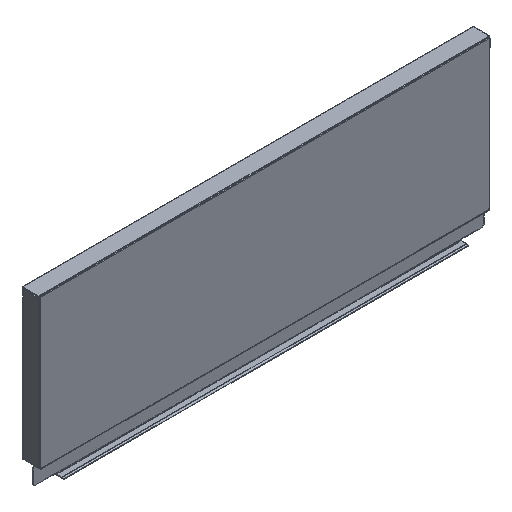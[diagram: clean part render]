
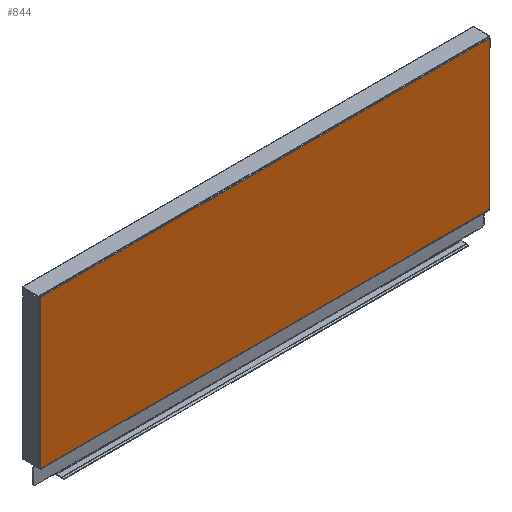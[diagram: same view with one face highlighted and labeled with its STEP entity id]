
A CAD part, isometric view. The second image highlights one B-rep face of the part: STEP entity #844.
In plain terms, the highlighted planar face has unit normal (0, -1, 0).
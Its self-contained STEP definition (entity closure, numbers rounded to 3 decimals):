
#2 = DIRECTION ( 'NONE',  ( 0., 0., -1. ) ) ;
#3 = CARTESIAN_POINT ( 'NONE',  ( -204., -6., 170.385 ) ) ;
#11 = EDGE_CURVE ( 'NONE', #38, #462, #1991, .T. ) ;
#38 = VERTEX_POINT ( 'NONE', #423 ) ;
#76 = VERTEX_POINT ( 'NONE', #415 ) ;
#272 = CARTESIAN_POINT ( 'NONE',  ( -203.5, -6., 17. ) ) ;
#315 = CARTESIAN_POINT ( 'NONE',  ( -204., -6., 151.5 ) ) ;
#320 = CARTESIAN_POINT ( 'NONE',  ( 204., -6., 151.5 ) ) ;
#322 = CARTESIAN_POINT ( 'NONE',  ( 204., -6., 152. ) ) ;
#335 = CARTESIAN_POINT ( 'NONE',  ( -203.5, -6., 17.5 ) ) ;
#339 = CARTESIAN_POINT ( 'NONE',  ( 203.5, -6., 17.5 ) ) ;
#349 = CARTESIAN_POINT ( 'NONE',  ( -204., -6., 152. ) ) ;
#352 = CARTESIAN_POINT ( 'NONE',  ( 203.5, -6., 17. ) ) ;
#415 = CARTESIAN_POINT ( 'NONE',  ( 204., -6., 17.5 ) ) ;
#423 = CARTESIAN_POINT ( 'NONE',  ( -204., -6., 17.5 ) ) ;
#429 = DIRECTION ( 'NONE',  ( 1., 0., 0. ) ) ;
#430 = CARTESIAN_POINT ( 'NONE',  ( -205., -6., 17.5 ) ) ;
#446 = VERTEX_POINT ( 'NONE', #352 ) ;
#449 = VERTEX_POINT ( 'NONE', #349 ) ;
#457 = VERTEX_POINT ( 'NONE', #339 ) ;
#462 = VERTEX_POINT ( 'NONE', #335 ) ;
#489 = VERTEX_POINT ( 'NONE', #322 ) ;
#497 = VERTEX_POINT ( 'NONE', #320 ) ;
#502 = VERTEX_POINT ( 'NONE', #315 ) ;
#536 = VERTEX_POINT ( 'NONE', #272 ) ;
#711 = EDGE_CURVE ( 'NONE', #449, #502, #2302, .T. ) ;
#712 = EDGE_CURVE ( 'NONE', #449, #489, #2304, .T. ) ;
#753 = AXIS2_PLACEMENT_3D ( 'NONE', #1501, #1500, #1498 ) ;
#844 = ADVANCED_FACE ( 'NONE', ( #2310 ), #1502, .T. ) ;
#922 = EDGE_CURVE ( 'NONE', #502, #38, #2411, .T. ) ;
#1070 = EDGE_LOOP ( 'NONE', ( #1976, #1975, #1974, #1973, #1972, #1971, #1970, #1969, #1968, #1967 ) ) ;
#1358 = CARTESIAN_POINT ( 'NONE',  ( 204., -6., 170.385 ) ) ;
#1359 = DIRECTION ( 'NONE',  ( 0., 0., -1. ) ) ;
#1377 = CARTESIAN_POINT ( 'NONE',  ( -203.5, -6., 17.5 ) ) ;
#1378 = DIRECTION ( 'NONE',  ( 0., 0., -1. ) ) ;
#1379 = CARTESIAN_POINT ( 'NONE',  ( -205., -6., 17. ) ) ;
#1380 = DIRECTION ( 'NONE',  ( 1., 0., 0. ) ) ;
#1381 = CARTESIAN_POINT ( 'NONE',  ( 203.5, -6., 15.3 ) ) ;
#1382 = DIRECTION ( 'NONE',  ( 0., 0., 1. ) ) ;
#1383 = CARTESIAN_POINT ( 'NONE',  ( 203.5, -6., 17.5 ) ) ;
#1384 = DIRECTION ( 'NONE',  ( 1., 0., 0. ) ) ;
#1385 = CARTESIAN_POINT ( 'NONE',  ( 204., -6., 170.385 ) ) ;
#1386 = DIRECTION ( 'NONE',  ( 0., 0., -1. ) ) ;
#1412 = EDGE_CURVE ( 'NONE', #489, #497, #2441, .T. ) ;
#1498 = DIRECTION ( 'NONE',  ( 1., 0., 0. ) ) ;
#1500 = DIRECTION ( 'NONE',  ( 0., -1., 0. ) ) ;
#1501 = CARTESIAN_POINT ( 'NONE',  ( -205., -6., 17. ) ) ;
#1502 = PLANE ( 'NONE',  #753 ) ;
#1512 = DIRECTION ( 'NONE',  ( 1., 0., 0. ) ) ;
#1513 = CARTESIAN_POINT ( 'NONE',  ( -205., -6., 152. ) ) ;
#1515 = DIRECTION ( 'NONE',  ( 0., 0., -1. ) ) ;
#1516 = CARTESIAN_POINT ( 'NONE',  ( -204., -6., 170.385 ) ) ;
#1695 = EDGE_CURVE ( 'NONE', #462, #536, #2458, .T. ) ;
#1696 = EDGE_CURVE ( 'NONE', #536, #446, #2460, .T. ) ;
#1697 = EDGE_CURVE ( 'NONE', #446, #457, #2462, .T. ) ;
#1698 = EDGE_CURVE ( 'NONE', #457, #76, #2464, .T. ) ;
#1699 = EDGE_CURVE ( 'NONE', #497, #76, #2466, .T. ) ;
#1967 = ORIENTED_EDGE ( 'NONE', *, *, #711, .T. ) ;
#1968 = ORIENTED_EDGE ( 'NONE', *, *, #712, .F. ) ;
#1969 = ORIENTED_EDGE ( 'NONE', *, *, #1412, .F. ) ;
#1970 = ORIENTED_EDGE ( 'NONE', *, *, #1699, .F. ) ;
#1971 = ORIENTED_EDGE ( 'NONE', *, *, #1698, .T. ) ;
#1972 = ORIENTED_EDGE ( 'NONE', *, *, #1697, .T. ) ;
#1973 = ORIENTED_EDGE ( 'NONE', *, *, #1696, .T. ) ;
#1974 = ORIENTED_EDGE ( 'NONE', *, *, #1695, .T. ) ;
#1975 = ORIENTED_EDGE ( 'NONE', *, *, #11, .T. ) ;
#1976 = ORIENTED_EDGE ( 'NONE', *, *, #922, .T. ) ;
#1991 = LINE ( 'NONE', #430, #1993 ) ;
#1993 = VECTOR ( 'NONE', #429, 1000. ) ;
#2302 = LINE ( 'NONE', #1516, #2303 ) ;
#2303 = VECTOR ( 'NONE', #1515, 1000. ) ;
#2304 = LINE ( 'NONE', #1513, #2305 ) ;
#2305 = VECTOR ( 'NONE', #1512, 1000. ) ;
#2310 = FACE_OUTER_BOUND ( 'NONE', #1070, .T. ) ;
#2411 = LINE ( 'NONE', #3, #2412 ) ;
#2412 = VECTOR ( 'NONE', #2, 1000. ) ;
#2441 = LINE ( 'NONE', #1358, #2442 ) ;
#2442 = VECTOR ( 'NONE', #1359, 1000. ) ;
#2458 = LINE ( 'NONE', #1377, #2459 ) ;
#2459 = VECTOR ( 'NONE', #1378, 1000. ) ;
#2460 = LINE ( 'NONE', #1379, #2461 ) ;
#2461 = VECTOR ( 'NONE', #1380, 1000. ) ;
#2462 = LINE ( 'NONE', #1381, #2463 ) ;
#2463 = VECTOR ( 'NONE', #1382, 1000. ) ;
#2464 = LINE ( 'NONE', #1383, #2465 ) ;
#2465 = VECTOR ( 'NONE', #1384, 1000. ) ;
#2466 = LINE ( 'NONE', #1385, #2467 ) ;
#2467 = VECTOR ( 'NONE', #1386, 1000. ) ;
